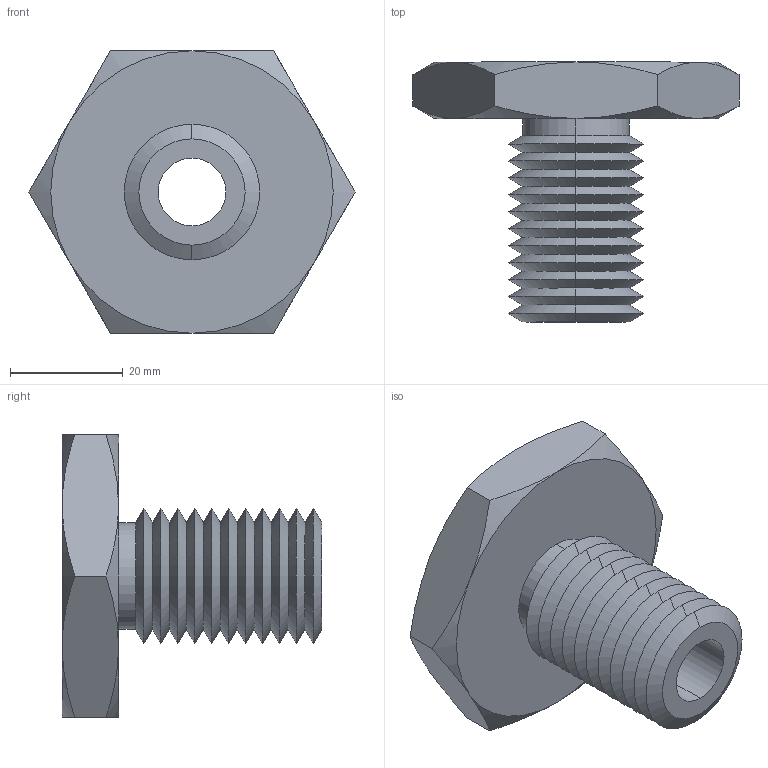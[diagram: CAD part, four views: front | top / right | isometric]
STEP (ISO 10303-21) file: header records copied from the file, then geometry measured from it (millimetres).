
FILE_DESCRIPTION (( 'STEP AP203' ), '1' );
FILE_NAME ('63302.W0024_M12x1,7.step', '2013-12-08T11:02:52', ( 'User' ), ( '' ), 'SwSTEP 2.0', 'SolidWorks 2009', '' );
FILE_SCHEMA (( 'CONFIG_CONTROL_DESIGN' ));
Length unit declared in the file: millimetre
Products named in the file (1): 63302.W0024_M12x1,7
Bounding box: 57.73 x 46 x 50 mm (x, y, z)
Volume: 28880 mm3; surface area: 11948.2 mm2
Topology: 1 solids, 1 shells, 71 faces, 146 edges, 78 vertices
Faces by surface type: cone 58, plane 9, cylinder 4
Entity records: 2039 total; most frequent: CARTESIAN_POINT 480, DIRECTION 332, ORIENTED_EDGE 292, EDGE_CURVE 146, AXIS2_PLACEMENT_3D 138, VERTEX_POINT 78, EDGE_LOOP 74, ADVANCED_FACE 71
